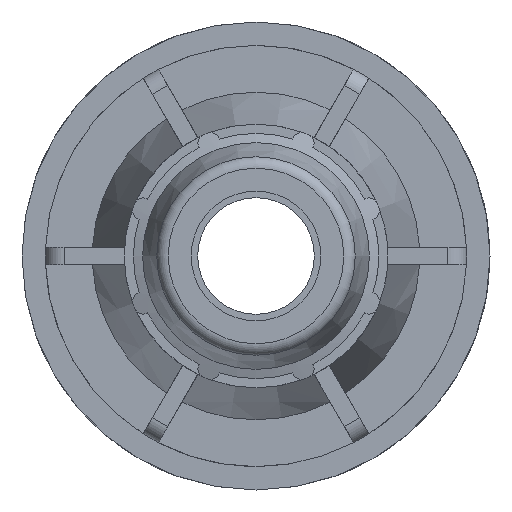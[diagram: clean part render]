
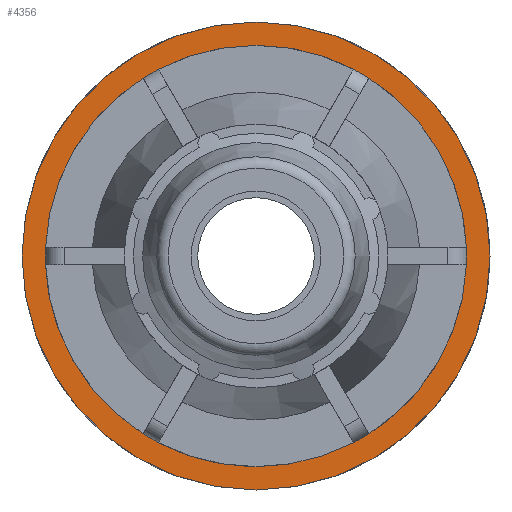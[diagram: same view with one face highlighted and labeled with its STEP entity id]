
A CAD part, left-side view. The second image highlights one B-rep face of the part: STEP entity #4356.
In plain terms, the highlighted planar face has unit normal (-1, 0, 0).
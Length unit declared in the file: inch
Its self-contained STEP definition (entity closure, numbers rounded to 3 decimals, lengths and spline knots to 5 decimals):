
#48=FACE_BOUND('',#595,.T.);
#376=FACE_OUTER_BOUND('',#594,.T.);
#594=EDGE_LOOP('',(#3561,#3562));
#595=EDGE_LOOP('',(#3563,#3564));
#670=CIRCLE('',#4486,1.89);
#671=CIRCLE('',#4487,1.89);
#808=CIRCLE('',#4767,1.512);
#809=CIRCLE('',#4768,1.512);
#1628=VERTEX_POINT('',#6296);
#1629=VERTEX_POINT('',#6298);
#1904=VERTEX_POINT('',#7489);
#1905=VERTEX_POINT('',#7490);
#2080=EDGE_CURVE('',#1628,#1629,#670,.T.);
#2081=EDGE_CURVE('',#1629,#1628,#671,.T.);
#2507=EDGE_CURVE('',#1904,#1905,#808,.T.);
#2508=EDGE_CURVE('',#1905,#1904,#809,.T.);
#3561=ORIENTED_EDGE('',*,*,#2081,.F.);
#3562=ORIENTED_EDGE('',*,*,#2080,.F.);
#3563=ORIENTED_EDGE('',*,*,#2507,.T.);
#3564=ORIENTED_EDGE('',*,*,#2508,.T.);
#3945=PLANE('',#4766);
#4356=ADVANCED_FACE('',(#376,#48),#3945,.T.);
#4486=AXIS2_PLACEMENT_3D('',#6299,#5072,#5073);
#4487=AXIS2_PLACEMENT_3D('',#6300,#5074,#5075);
#4766=AXIS2_PLACEMENT_3D('',#7488,#5838,#5839);
#4767=AXIS2_PLACEMENT_3D('',#7491,#5840,#5841);
#4768=AXIS2_PLACEMENT_3D('',#7492,#5842,#5843);
#5072=DIRECTION('center_axis',(1.,0.,0.));
#5073=DIRECTION('ref_axis',(0.,0.,-1.));
#5074=DIRECTION('center_axis',(1.,0.,0.));
#5075=DIRECTION('ref_axis',(0.,0.,-1.));
#5838=DIRECTION('center_axis',(-1.,0.,0.));
#5839=DIRECTION('ref_axis',(0.,0.,1.));
#5840=DIRECTION('center_axis',(1.,0.,0.));
#5841=DIRECTION('ref_axis',(0.,0.,-1.));
#5842=DIRECTION('center_axis',(1.,0.,0.));
#5843=DIRECTION('ref_axis',(0.,0.,-1.));
#6296=CARTESIAN_POINT('',(1.44115,-1.89,0.));
#6298=CARTESIAN_POINT('',(1.44115,0.,1.89));
#6299=CARTESIAN_POINT('Origin',(1.44115,0.,0.));
#6300=CARTESIAN_POINT('Origin',(1.44115,0.,0.));
#7488=CARTESIAN_POINT('Origin',(1.44115,1.89,0.));
#7489=CARTESIAN_POINT('',(1.44115,1.512,0.));
#7490=CARTESIAN_POINT('',(1.44115,-1.512,0.));
#7491=CARTESIAN_POINT('Origin',(1.44115,0.,0.));
#7492=CARTESIAN_POINT('Origin',(1.44115,0.,0.));
